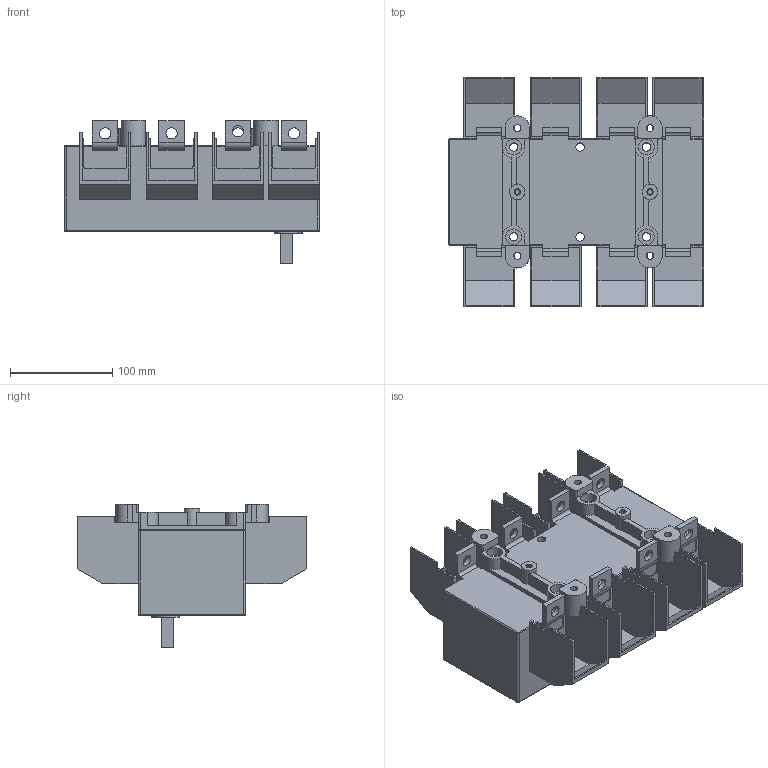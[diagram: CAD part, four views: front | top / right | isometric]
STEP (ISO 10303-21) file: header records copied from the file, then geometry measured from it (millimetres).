
FILE_DESCRIPTION(/* description */ (''),/* implementation_level */ '2;1');
FILE_NAME(/* name */ 'RA630 P3 NC z oslona zaciskow.stp',/* time_stamp */ '2021-08-19T08:50:19+02:00',/* author */ (''),/* organization */ (''),/* preprocessor_version */ 'ST-DEVELOPER v18.1',/* originating_system */ 'SIEMENS PLM Software NX 1965',/* authorisation */ '');
FILE_SCHEMA (('AUTOMOTIVE_DESIGN { 1 0 10303 214 3 1 1 1 }'));
Length unit declared in the file: millimetre
Products named in the file (1): RA630 P3 NC z oslona zaciskow_stp
Bounding box: 250 x 225 x 141 mm (x, y, z)
Volume: 2435591.1 mm3; surface area: 335276.1 mm2
Topology: 1 solids, 1 shells, 458 faces, 1344 edges, 882 vertices
Faces by surface type: plane 328, cylinder 122, torus 5, bspline 3
Full cylindrical faces by diameter (mm): 4.8 x2, 6.2 x2, 7 x4, 8.2 x6, 11 x8, 14 x4, 15 x2, 15.5 x4
Entity records: 15069 total; most frequent: CARTESIAN_POINT 2704, ORIENTED_EDGE 2608, DIRECTION 2504, EDGE_CURVE 1304, LINE 1012, VECTOR 1012, VERTEX_POINT 874, AXIS2_PLACEMENT_3D 746
